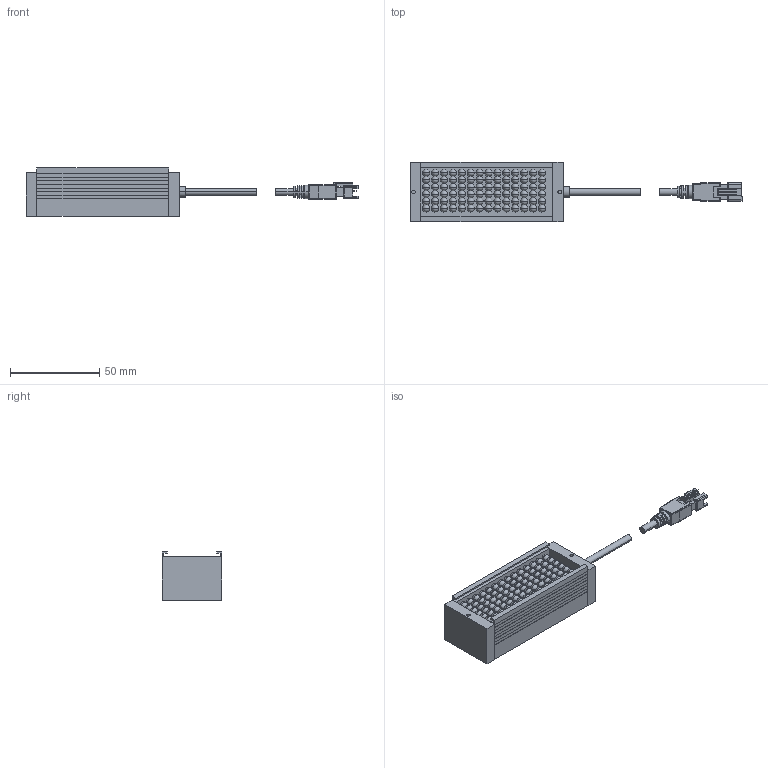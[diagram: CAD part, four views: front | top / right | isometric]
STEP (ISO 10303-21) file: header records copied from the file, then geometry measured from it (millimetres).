
FILE_DESCRIPTION(('STEP AP214'),'1');
FILE_NAME('VB86-940IR-CH1.stp','2023-02-27T09:16:40',(' '),(' '),'Spatial InterOp 3D',' ',' ');
FILE_SCHEMA(('AUTOMOTIVE_DESIGN { 1 0 10303 214 1 1 1 1 }'));
Length unit declared in the file: metre
Products named in the file (3): VB86-940IR-CH1; Component1; Component2
Assembly tree (2 placements, depth 2):
  VB86-940IR-CH1
    Component1
    Component2
Bounding box: 186.15 x 33.5 x 27 mm (x, y, z)
Volume: 60455.8 mm3; surface area: 26884.9 mm2
Topology: 2 solids, 2 shells, 757 faces, 2100 edges, 1204 vertices
Faces by surface type: cylinder 276, plane 275, sphere 176, cone 22, torus 4, bspline 4
Entity records: 24261 total; most frequent: CARTESIAN_POINT 5446, DIRECTION 4198, ORIENTED_EDGE 3848, EDGE_CURVE 1924, AXIS2_PLACEMENT_3D 1616, VERTEX_POINT 1204, LINE 966, VECTOR 966
